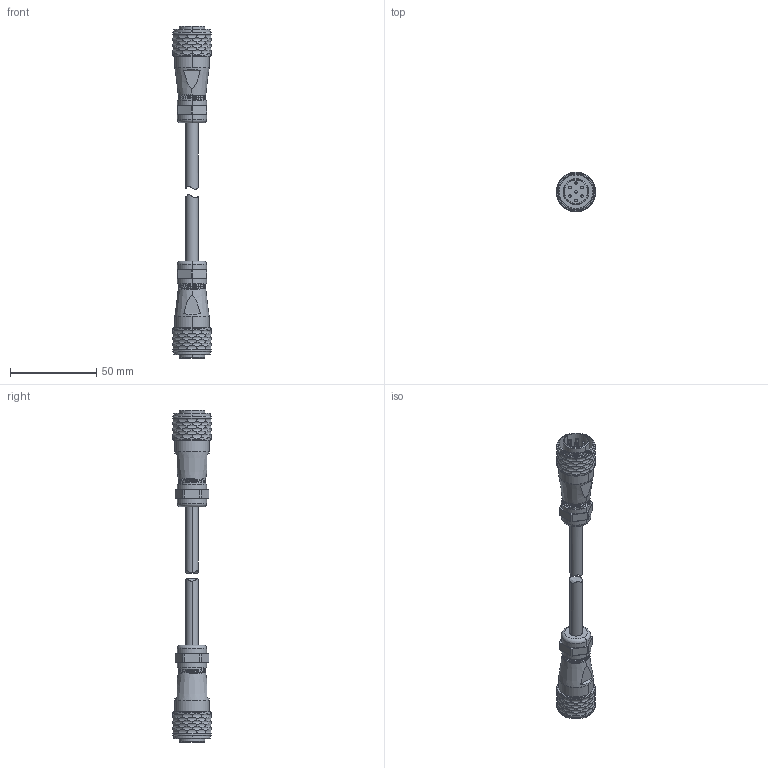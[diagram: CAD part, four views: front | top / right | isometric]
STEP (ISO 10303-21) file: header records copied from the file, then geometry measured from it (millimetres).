
FILE_DESCRIPTION((''),'2;1');
FILE_NAME('SA161-7PL_ASM','2022-02-08T',('hyj'),(''),'PRO/ENGINEER BY PARAMETRIC TECHNOLOGY CORPORATION, 2010100','PRO/ENGINEER BY PARAMETRIC TECHNOLOGY CORPORATION, 2010100','');
FILE_SCHEMA(('CONFIG_CONTROL_DESIGN'));
Length unit declared in the file: millimetre
Products named in the file (3): XIANLAN; SA1610-P7B; SA161-7PL_ASM
Assembly tree (3 placements, depth 2):
  SA161-7PL_ASM
    XIANLAN
    SA1610-P7B  x2
Bounding box: 22.5 x 22.5 x 192 mm (x, y, z)
Volume: 26671.4 mm3; surface area: 16599.2 mm2
Topology: 4 solids, 4 shells, 488 faces, 1298 edges, 852 vertices
Faces by surface type: cylinder 376, plane 76, cone 20, torus 8, bspline 6, extrusion 2
Entity records: 11525 total; most frequent: CARTESIAN_POINT 6130, ORIENTED_EDGE 1310, DIRECTION 786, EDGE_CURVE 655, B_SPLINE_CURVE_WITH_KNOTS 463, VERTEX_POINT 430, AXIS2_PLACEMENT_3D 341, EDGE_LOOP 265
